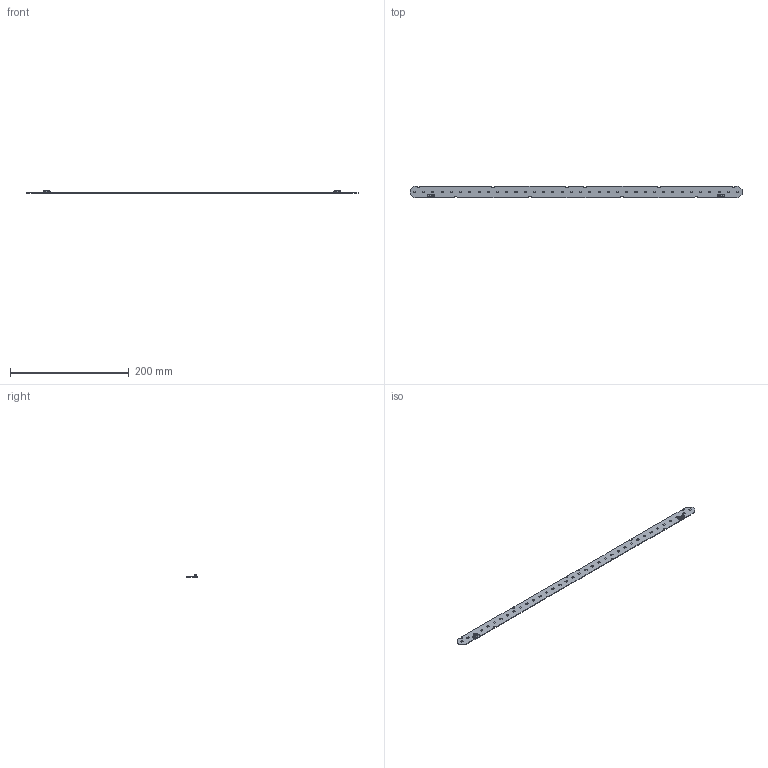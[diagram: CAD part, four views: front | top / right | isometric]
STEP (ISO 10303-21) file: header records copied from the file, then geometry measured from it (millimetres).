
FILE_DESCRIPTION(/* description */ ('Unknown'),/* implementation_level */ '2;1');
FILE_NAME(/* name */ 'LinLED 550lm per 1ft 2C 560x20',/* time_stamp */ '2023-05-12T09:57:12+02:00',/* author */ ('Unknown'),/* organization */ ('Unknown'),/* preprocessor_version */ 'ST-DEVELOPER v18.102',/* originating_system */ 'Solid Edge',/* authorisation */ 'Unknown');
FILE_SCHEMA (('AUTOMOTIVE_DESIGN {1 0 10303 214 3 1 1}'));
Length unit declared in the file: millimetre
Products named in the file (1): LinLED 550lm per 1ft 2C 560x20
Bounding box: 559.6 x 20 x 4.45 mm (x, y, z)
Volume: 11446 mm3; surface area: 23884.8 mm2
Topology: 1 solids, 1 shells, 1142 faces, 2998 edges, 1930 vertices
Faces by surface type: plane 822, cylinder 164, torus 64, cone 50, bspline 26, sphere 16
Entity records: 43686 total; most frequent: CARTESIAN_POINT 8297, ORIENTED_EDGE 5948, DIRECTION 5100, EDGE_CURVE 2974, LINE 2298, VECTOR 2298, VERTEX_POINT 1924, AXIS2_PLACEMENT_3D 1401
